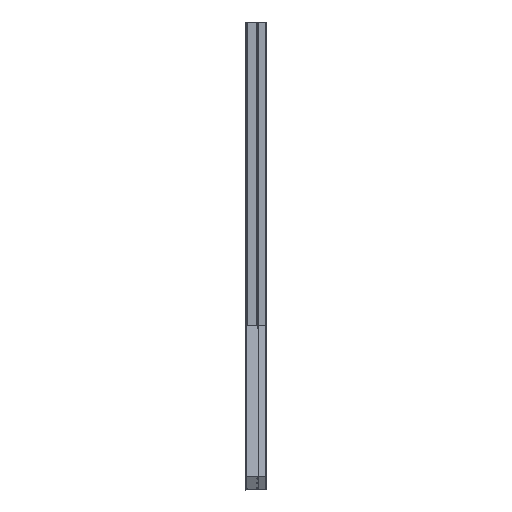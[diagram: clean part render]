
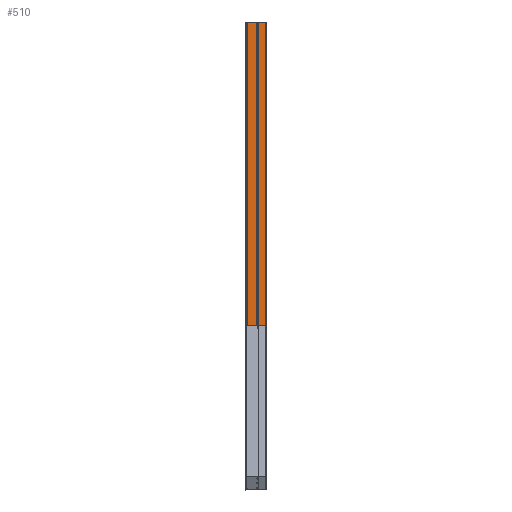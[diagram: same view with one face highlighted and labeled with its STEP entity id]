
A CAD part, left-side view. The second image highlights one B-rep face of the part: STEP entity #510.
In plain terms, the highlighted planar face has unit normal (-1, 0, 0).
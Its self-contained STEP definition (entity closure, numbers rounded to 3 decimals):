
#510=ADVANCED_FACE('',(#1650),#1652,.T.);
#1650=FACE_BOUND('',#1651,.T.);
#1651=EDGE_LOOP('',(#5244,#5245,#5246,#5247));
#1652=PLANE('',#1653);
#1653=AXIS2_PLACEMENT_3D('',#1654,#1655,#1656);
#1654=CARTESIAN_POINT('',(-25.,4.,-503.5));
#1655=DIRECTION('',(-1.,0.,0.));
#1656=DIRECTION('',(0.,-1.,0.));
#5244=ORIENTED_EDGE('',*,*,#7268,.T.);
#5245=ORIENTED_EDGE('',*,*,#7653,.T.);
#5246=ORIENTED_EDGE('',*,*,#7525,.F.);
#5247=ORIENTED_EDGE('',*,*,#7654,.F.);
#7268=EDGE_CURVE('',#8672,#8670,#8673,.F.);
#7525=EDGE_CURVE('',#9178,#8909,#9180,.T.);
#7653=EDGE_CURVE('',#8670,#8909,#9361,.T.);
#7654=EDGE_CURVE('',#8672,#9178,#9362,.T.);
#8670=VERTEX_POINT('',#11091);
#8672=VERTEX_POINT('',#11096);
#8673=LINE('',#11097,#11098);
#8909=VERTEX_POINT('',#11649);
#9178=VERTEX_POINT('',#12269);
#9180=LINE('',#12274,#12275);
#9361=LINE('',#12761,#12762);
#9362=LINE('',#12764,#12765);
#11091=CARTESIAN_POINT('',(-25.,-63.75,-489.066));
#11096=CARTESIAN_POINT('',(-25.,4.,-489.066));
#11097=CARTESIAN_POINT('',(-25.,-63.75,-489.066));
#11098=VECTOR('',#11099,1.);
#11099=DIRECTION('',(0.,1.,0.));
#11649=CARTESIAN_POINT('',(-25.,-63.75,503.5));
#12269=CARTESIAN_POINT('',(-25.,4.,503.5));
#12274=CARTESIAN_POINT('',(-25.,4.,503.5));
#12275=VECTOR('',#12276,1.);
#12276=DIRECTION('',(0.,-1.,0.));
#12761=CARTESIAN_POINT('',(-25.,-63.75,-489.066));
#12762=VECTOR('',#12763,1.);
#12763=DIRECTION('',(0.,0.,1.));
#12764=CARTESIAN_POINT('',(-25.,4.,-489.066));
#12765=VECTOR('',#12766,1.);
#12766=DIRECTION('',(0.,0.,1.));
